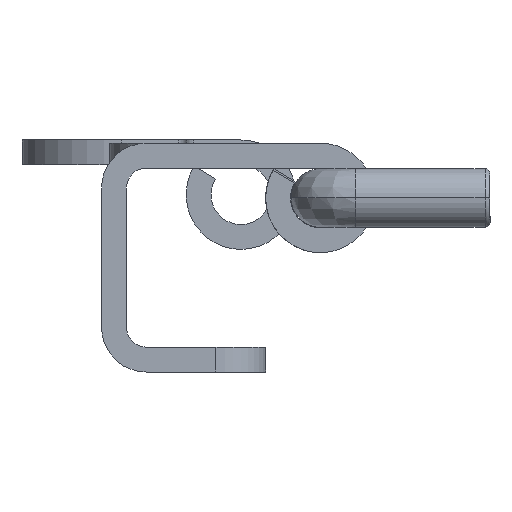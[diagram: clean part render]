
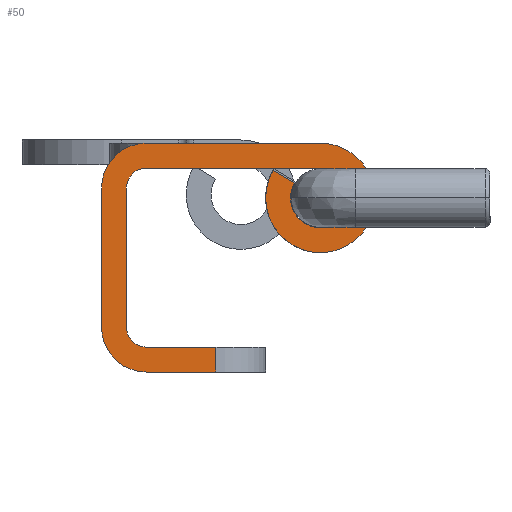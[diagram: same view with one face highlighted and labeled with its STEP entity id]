
A CAD part, front view. The second image highlights one B-rep face of the part: STEP entity #50.
In plain terms, the highlighted planar face has unit normal (0, -1, 0).
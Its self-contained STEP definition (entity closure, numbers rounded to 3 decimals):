
#50=ADVANCED_FACE('',(#162),#1954,.T.);
#162=FACE_OUTER_BOUND('',#278,.T.);
#278=EDGE_LOOP('',(#474,#475,#476,#477,#478,#479,#480,#481,#482,#483,#484,
#485,#486,#487,#488,#489));
#474=ORIENTED_EDGE('',*,*,#991,.F.);
#475=ORIENTED_EDGE('',*,*,#989,.T.);
#476=ORIENTED_EDGE('',*,*,#980,.F.);
#477=ORIENTED_EDGE('',*,*,#977,.T.);
#478=ORIENTED_EDGE('',*,*,#974,.F.);
#479=ORIENTED_EDGE('',*,*,#1031,.T.);
#480=ORIENTED_EDGE('',*,*,#1030,.T.);
#481=ORIENTED_EDGE('',*,*,#1026,.F.);
#482=ORIENTED_EDGE('',*,*,#1047,.T.);
#483=ORIENTED_EDGE('',*,*,#1043,.T.);
#484=ORIENTED_EDGE('',*,*,#1013,.F.);
#485=ORIENTED_EDGE('',*,*,#1059,.T.);
#486=ORIENTED_EDGE('',*,*,#1006,.F.);
#487=ORIENTED_EDGE('',*,*,#999,.F.);
#488=ORIENTED_EDGE('',*,*,#996,.F.);
#489=ORIENTED_EDGE('',*,*,#1033,.T.);
#974=EDGE_CURVE('',#1686,#1687,#1576,.T.);
#977=EDGE_CURVE('',#1689,#1687,#1326,.T.);
#980=EDGE_CURVE('',#1689,#1691,#1579,.T.);
#989=EDGE_CURVE('',#1700,#1691,#1329,.T.);
#991=EDGE_CURVE('',#1700,#1702,#1586,.T.);
#996=EDGE_CURVE('',#1711,#1712,#1591,.T.);
#999=EDGE_CURVE('',#1712,#1719,#1330,.T.);
#1006=EDGE_CURVE('',#1719,#1727,#1598,.T.);
#1013=EDGE_CURVE('',#1732,#1733,#1601,.T.);
#1026=EDGE_CURVE('',#1744,#1745,#1608,.T.);
#1030=EDGE_CURVE('',#1747,#1745,#1339,.T.);
#1031=EDGE_CURVE('',#1686,#1747,#1340,.T.);
#1033=EDGE_CURVE('',#1711,#1702,#1611,.T.);
#1043=EDGE_CURVE('',#1748,#1733,#1342,.T.);
#1047=EDGE_CURVE('',#1744,#1748,#1345,.T.);
#1059=EDGE_CURVE('',#1732,#1727,#1352,.T.);
#1326=TRIMMED_CURVE($,#1450,(#2865),(#2866),.T.,.CARTESIAN.);
#1329=TRIMMED_CURVE($,#1453,(#2892),(#2893),.T.,.CARTESIAN.);
#1330=TRIMMED_CURVE($,#1454,(#2913),(#2914),.T.,.CARTESIAN.);
#1339=TRIMMED_CURVE($,#1463,(#2984),(#2985),.T.,.CARTESIAN.);
#1340=TRIMMED_CURVE($,#1464,(#2987),(#2988),.T.,.CARTESIAN.);
#1342=TRIMMED_CURVE($,#1466,(#3013),(#3014),.T.,.CARTESIAN.);
#1345=TRIMMED_CURVE($,#1469,(#3024),(#3025),.T.,.CARTESIAN.);
#1352=TRIMMED_CURVE($,#1476,(#3055),(#3056),.T.,.CARTESIAN.);
#1450=CIRCLE('',#2116,2.);
#1453=CIRCLE('',#2119,2.);
#1454=CIRCLE('',#2120,4.5);
#1463=CIRCLE('',#2129,3.);
#1464=CIRCLE('',#2130,3.);
#1466=CIRCLE('',#2132,5.5);
#1469=CIRCLE('',#2135,5.5);
#1476=CIRCLE('',#2142,4.5);
#1576=B_SPLINE_CURVE_WITH_KNOTS('',1,(#2858,#2859),.UNSPECIFIED.,.F.,.F.,
(2,2),(0.,17.5),.UNSPECIFIED.);
#1579=B_SPLINE_CURVE_WITH_KNOTS('',1,(#2872,#2873),.UNSPECIFIED.,.F.,.F.,
(2,2),(0.,14.),.UNSPECIFIED.);
#1586=B_SPLINE_CURVE_WITH_KNOTS('',1,(#2896,#2897),.UNSPECIFIED.,.F.,.F.,
(2,2),(0.,7.),.UNSPECIFIED.);
#1591=B_SPLINE_CURVE_WITH_KNOTS('',1,(#2906,#2907),.UNSPECIFIED.,.F.,.F.,
(2,2),(0.,7.),.UNSPECIFIED.);
#1598=B_SPLINE_CURVE_WITH_KNOTS('',1,(#2928,#2929),.UNSPECIFIED.,.F.,.F.,
(2,2),(0.,14.),.UNSPECIFIED.);
#1601=B_SPLINE_CURVE_WITH_KNOTS('',1,(#2944,#2945),.UNSPECIFIED.,.F.,.F.,
(2,2),(0.,17.5),.UNSPECIFIED.);
#1608=B_SPLINE_CURVE_WITH_KNOTS('',1,(#2974,#2975),.UNSPECIFIED.,.F.,.F.,
(2,2),(0.,2.5),.UNSPECIFIED.);
#1611=B_SPLINE_CURVE_WITH_KNOTS('',1,(#2992,#2993),.UNSPECIFIED.,.F.,.F.,
(2,2),(0.,2.5),.UNSPECIFIED.);
#1686=VERTEX_POINT('',#2776);
#1687=VERTEX_POINT('',#2777);
#1689=VERTEX_POINT('',#2779);
#1691=VERTEX_POINT('',#2781);
#1700=VERTEX_POINT('',#2790);
#1702=VERTEX_POINT('',#2792);
#1711=VERTEX_POINT('',#2801);
#1712=VERTEX_POINT('',#2802);
#1719=VERTEX_POINT('',#2809);
#1727=VERTEX_POINT('',#2817);
#1732=VERTEX_POINT('',#2822);
#1733=VERTEX_POINT('',#2823);
#1744=VERTEX_POINT('',#2834);
#1745=VERTEX_POINT('',#2835);
#1747=VERTEX_POINT('',#2837);
#1748=VERTEX_POINT('',#2838);
#1954=PLANE('',#2092);
#2092=AXIS2_PLACEMENT_3D('',#2670,#2319,$);
#2116=AXIS2_PLACEMENT_3D($,#2864,#2343,#2344);
#2119=AXIS2_PLACEMENT_3D($,#2891,#2349,#2350);
#2120=AXIS2_PLACEMENT_3D($,#2912,#2351,#2352);
#2129=AXIS2_PLACEMENT_3D($,#2983,#2369,#2370);
#2130=AXIS2_PLACEMENT_3D($,#2986,#2371,#2372);
#2132=AXIS2_PLACEMENT_3D($,#3012,#2375,#2376);
#2135=AXIS2_PLACEMENT_3D($,#3023,#2381,#2382);
#2142=AXIS2_PLACEMENT_3D($,#3054,#2395,#2396);
#2319=DIRECTION('',(0.,-1.,0.));
#2343=DIRECTION('',(0.,1.,0.));
#2344=DIRECTION('',(-1.,0.,0.));
#2349=DIRECTION('',(0.,1.,0.));
#2350=DIRECTION('',(0.,0.,-1.));
#2351=DIRECTION('',(0.,1.,0.));
#2352=DIRECTION('',(0.,0.,-1.));
#2369=DIRECTION('',(0.,1.,0.));
#2370=DIRECTION('',(0.,0.,-1.));
#2371=DIRECTION('',(0.,1.,0.));
#2372=DIRECTION('',(0.,0.,1.));
#2375=DIRECTION('',(0.,-1.,0.));
#2376=DIRECTION('',(0.,0.,-1.));
#2381=DIRECTION('',(0.,-1.,0.));
#2382=DIRECTION('',(-0.866,0.,0.5));
#2395=DIRECTION('',(0.,-1.,0.));
#2396=DIRECTION('',(0.,0.,1.));
#2670=CARTESIAN_POINT('',(-9.761,-45.,25.197));
#2776=CARTESIAN_POINT('',(15.001,-45.,20.385));
#2777=CARTESIAN_POINT('',(-2.499,-45.,20.385));
#2779=CARTESIAN_POINT('',(-4.499,-45.,18.385));
#2781=CARTESIAN_POINT('',(-4.499,-45.,4.385));
#2790=CARTESIAN_POINT('',(-2.499,-45.,2.385));
#2792=CARTESIAN_POINT('',(4.501,-45.,2.385));
#2801=CARTESIAN_POINT('',(4.501,-45.,-0.115));
#2802=CARTESIAN_POINT('',(-2.499,-45.,-0.115));
#2809=CARTESIAN_POINT('',(-6.999,-45.,4.385));
#2817=CARTESIAN_POINT('',(-6.999,-45.,18.385));
#2822=CARTESIAN_POINT('',(-2.499,-45.,22.885));
#2823=CARTESIAN_POINT('',(15.001,-45.,22.885));
#2834=CARTESIAN_POINT('',(10.238,-45.,20.135));
#2835=CARTESIAN_POINT('',(12.403,-45.,18.885));
#2837=CARTESIAN_POINT('',(15.001,-45.,14.385));
#2838=CARTESIAN_POINT('',(15.001,-45.,11.885));
#2858=CARTESIAN_POINT('',(15.001,-45.,20.385));
#2859=CARTESIAN_POINT('',(-2.499,-45.,20.385));
#2864=CARTESIAN_POINT('',(-2.499,-45.,18.385));
#2865=CARTESIAN_POINT('',(-4.499,-45.,18.385));
#2866=CARTESIAN_POINT('',(-2.499,-45.,20.385));
#2872=CARTESIAN_POINT('',(-4.499,-45.,18.385));
#2873=CARTESIAN_POINT('',(-4.499,-45.,4.385));
#2891=CARTESIAN_POINT('',(-2.499,-45.,4.385));
#2892=CARTESIAN_POINT('',(-2.499,-45.,2.385));
#2893=CARTESIAN_POINT('',(-4.499,-45.,4.385));
#2896=CARTESIAN_POINT('',(-2.499,-45.,2.385));
#2897=CARTESIAN_POINT('',(4.501,-45.,2.385));
#2906=CARTESIAN_POINT('',(4.501,-45.,-0.115));
#2907=CARTESIAN_POINT('',(-2.499,-45.,-0.115));
#2912=CARTESIAN_POINT('',(-2.499,-45.,4.385));
#2913=CARTESIAN_POINT('',(-2.499,-45.,-0.115));
#2914=CARTESIAN_POINT('',(-6.999,-45.,4.385));
#2928=CARTESIAN_POINT('',(-6.999,-45.,4.385));
#2929=CARTESIAN_POINT('',(-6.999,-45.,18.385));
#2944=CARTESIAN_POINT('',(-2.499,-45.,22.885));
#2945=CARTESIAN_POINT('',(15.001,-45.,22.885));
#2974=CARTESIAN_POINT('',(10.238,-45.,20.135));
#2975=CARTESIAN_POINT('',(12.403,-45.,18.885));
#2983=CARTESIAN_POINT('',(15.001,-45.,17.385));
#2984=CARTESIAN_POINT('',(15.001,-45.,14.385));
#2985=CARTESIAN_POINT('',(12.403,-45.,18.885));
#2986=CARTESIAN_POINT('',(15.001,-45.,17.385));
#2987=CARTESIAN_POINT('',(15.001,-45.,20.385));
#2988=CARTESIAN_POINT('',(15.001,-45.,14.385));
#2992=CARTESIAN_POINT('',(4.501,-45.,-0.115));
#2993=CARTESIAN_POINT('',(4.501,-45.,2.385));
#3012=CARTESIAN_POINT('',(15.001,-45.,17.385));
#3013=CARTESIAN_POINT('',(15.001,-45.,11.885));
#3014=CARTESIAN_POINT('',(15.001,-45.,22.885));
#3023=CARTESIAN_POINT('',(15.001,-45.,17.385));
#3024=CARTESIAN_POINT('',(10.238,-45.,20.135));
#3025=CARTESIAN_POINT('',(15.001,-45.,11.885));
#3054=CARTESIAN_POINT('',(-2.499,-45.,18.385));
#3055=CARTESIAN_POINT('',(-2.499,-45.,22.885));
#3056=CARTESIAN_POINT('',(-6.999,-45.,18.385));
